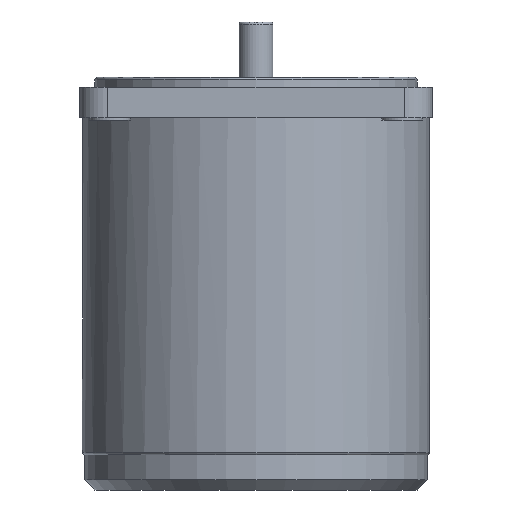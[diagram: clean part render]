
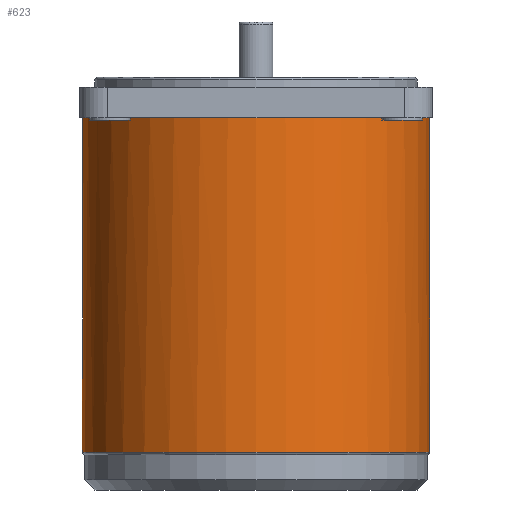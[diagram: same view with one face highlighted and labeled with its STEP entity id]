
A CAD part, left-side view. The second image highlights one B-rep face of the part: STEP entity #623.
In plain terms, the highlighted cylindrical face has radius 34.5 mm (diameter 69 mm), a full revolution.
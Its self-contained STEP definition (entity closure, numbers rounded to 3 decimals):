
#542=CARTESIAN_POINT('',(30.053,16.944,74.));
#543=VERTEX_POINT('',#542);
#544=CARTESIAN_POINT('',(33.231,9.269,74.));
#545=VERTEX_POINT('',#544);
#546=CARTESIAN_POINT('',(30.053,16.944,74.));
#547=CARTESIAN_POINT('',(29.976,17.08,73.871));
#548=CARTESIAN_POINT('',(29.901,17.21,73.735));
#549=CARTESIAN_POINT('',(29.539,17.834,73.02));
#550=CARTESIAN_POINT('',(29.271,18.264,72.291));
#551=CARTESIAN_POINT('',(28.909,18.832,70.69));
#552=CARTESIAN_POINT('',(28.816,18.971,69.818));
#553=CARTESIAN_POINT('',(28.816,18.971,68.182));
#554=CARTESIAN_POINT('',(28.909,18.832,67.31));
#555=CARTESIAN_POINT('',(29.271,18.264,65.709));
#556=CARTESIAN_POINT('',(29.539,17.834,64.98));
#557=CARTESIAN_POINT('',(30.123,16.829,63.828));
#558=CARTESIAN_POINT('',(30.478,16.186,63.328));
#559=CARTESIAN_POINT('',(31.198,14.751,62.664));
#560=CARTESIAN_POINT('',(31.561,13.959,62.5));
#561=CARTESIAN_POINT('',(32.187,12.447,62.5));
#562=CARTESIAN_POINT('',(32.491,11.629,62.664));
#563=CARTESIAN_POINT('',(32.996,10.106,63.328));
#564=CARTESIAN_POINT('',(33.2,9.4,63.828));
#565=CARTESIAN_POINT('',(33.498,8.277,64.98));
#566=CARTESIAN_POINT('',(33.612,7.783,65.709));
#567=CARTESIAN_POINT('',(33.758,7.125,67.31));
#568=CARTESIAN_POINT('',(33.79,6.961,68.182));
#569=CARTESIAN_POINT('',(33.79,6.961,69.0));
#570=CARTESIAN_POINT('',(33.79,6.961,69.818));
#571=CARTESIAN_POINT('',(33.758,7.125,70.69));
#572=CARTESIAN_POINT('',(33.612,7.783,72.291));
#573=CARTESIAN_POINT('',(33.498,8.277,73.02));
#574=CARTESIAN_POINT('',(33.313,8.974,73.735));
#575=CARTESIAN_POINT('',(33.274,9.118,73.871));
#576=CARTESIAN_POINT('',(33.231,9.269,74.0));
#577=B_SPLINE_CURVE_WITH_KNOTS('',3,(#546,#547,#548,#549,#550,#551,#552,#553,#554,#555,#556,#557,#558,#559,#560,#561,#562,#563,#564,#565,#566,#567,#568,#569,#570,#571,#572,#573,#574,#575,#576),.UNSPECIFIED.,.F.,.U.,(4,2,2,2,2,2,2,2,2,2,2,3,2,2,4),(-2.514,-2.455,-2.209,-1.964,-1.718,-1.473,-1.227,-0.982,-0.736,-0.491,-0.245,0.0,0.245,0.491,0.55),.UNSPECIFIED.);
#578=EDGE_CURVE('',#543,#545,#577,.T.);
#597=CARTESIAN_POINT('',(0.0,0.0,0.0));
#598=DIRECTION('',(0.0,0.0,1.0));
#599=DIRECTION('',(-1.0,0.0,0.0));
#600=AXIS2_PLACEMENT_3D('',#597,#598,#599);
#601=CYLINDRICAL_SURFACE('',#600,34.5);
#602=CARTESIAN_POINT('',(-34.5,0.,7.5));
#603=VERTEX_POINT('',#602);
#604=CARTESIAN_POINT('',(0.0,0.0,7.5));
#605=DIRECTION('',(0.0,0.0,-1.0));
#606=DIRECTION('',(1.0,0.0,0.0));
#607=AXIS2_PLACEMENT_3D('',#604,#605,#606);
#608=CIRCLE('',#607,34.5);
#609=EDGE_CURVE('',#603,#603,#608,.T.);
#610=ORIENTED_EDGE('',*,*,#609,.F.);
#611=EDGE_LOOP('',(#610));
#612=FACE_OUTER_BOUND('',#611,.T.);
#613=ORIENTED_EDGE('',*,*,#578,.T.);
#614=CARTESIAN_POINT('',(0.0,0.0,74.0));
#615=DIRECTION('',(0.0,0.0,-1.0));
#616=DIRECTION('',(-1.0,0.0,0.0));
#617=AXIS2_PLACEMENT_3D('',#614,#615,#616);
#618=CIRCLE('',#617,34.5);
#619=EDGE_CURVE('',#545,#543,#618,.T.);
#620=ORIENTED_EDGE('',*,*,#619,.T.);
#621=EDGE_LOOP('',(#613,#620));
#622=FACE_BOUND('',#621,.T.);
#623=ADVANCED_FACE('',(#612,#622),#601,.T.);
